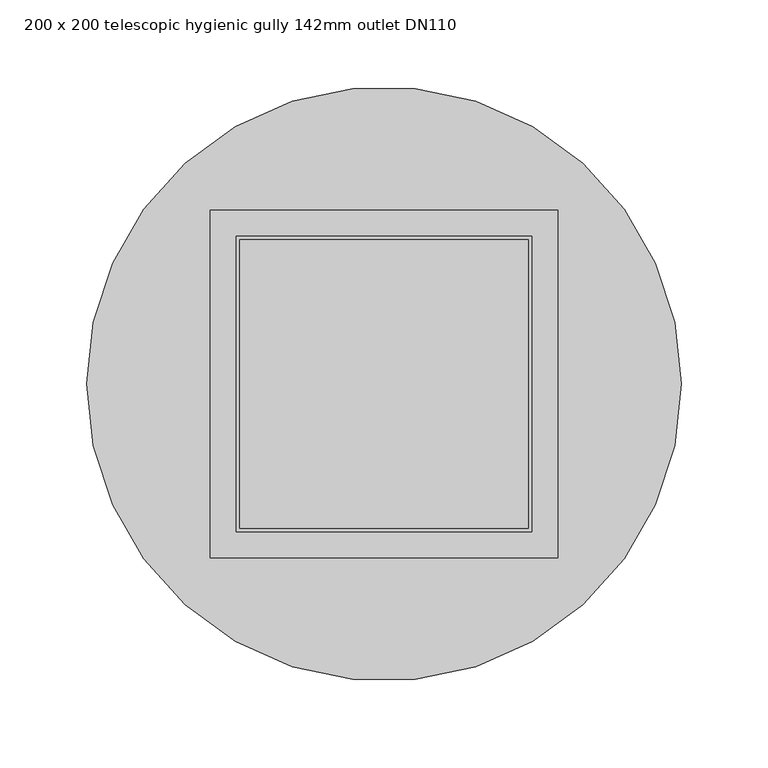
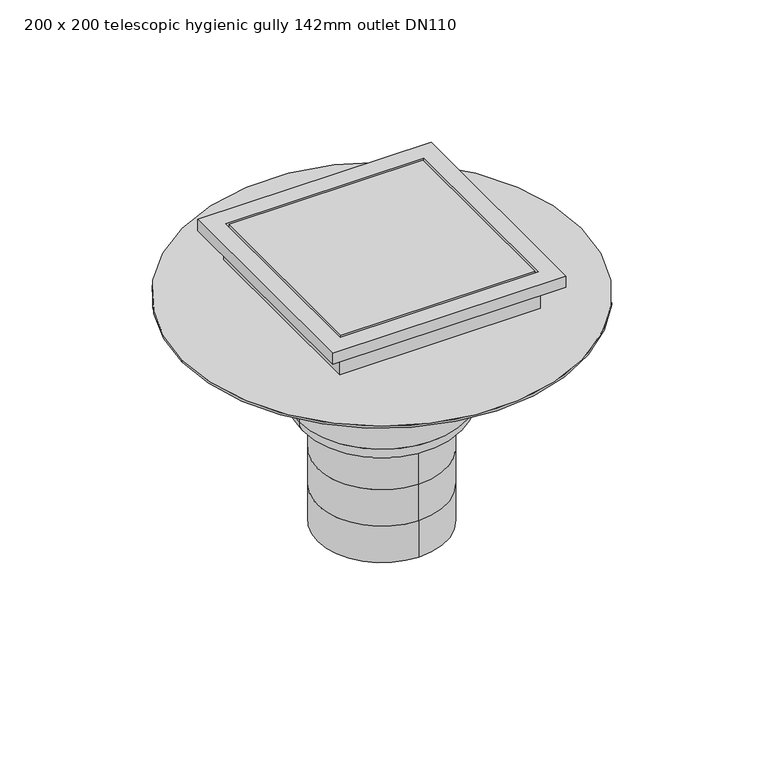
"""IFC4 building model written with IfcOpenShell, lengths in millimetres: sanitary terminal geometry, PF_ST_UN_Siphon telescopics eskis hygiene first_ACO : 200 x 200 telescopic hygienic gully 142mm outlet DN110."""

from ifc_helpers import new_model, si_unit, point, frame, origin, origin_2d, place, context, project, spatial, polyline, circle_curve, ellipse_curve, trimmed, segment, composite_curve, outline, extrude, faceted_brep, source, transform, mapped, element, save
from ifc_brep_helpers import plane_surface, cylinder_surface, revolved_surface, advanced_brep


def sanitary_terminal_200_x_200_telescopic_hygienic_gully_142mm_c773a695(model_context):
    return source(origin(), model_context, "Body", "SolidModel", [
        extrude(outline(composite_curve([segment(trimmed(circle_curve(origin_2d(), 62.5), [point((-62.5, 0.0))], [point((62.5, 0.0))], False, "CARTESIAN"), True, "CONTINUOUS"), segment(trimmed(circle_curve(origin_2d(), 62.5), [point((62.5, 0.0))], [point((-62.5, 0.0))], False, "CARTESIAN"), True, "CONTINUOUS")], self_intersect=False)), frame((0.0, 0.0, -198.0), z_axis=(0.0, 0.0, 1.0), x_axis=(1.0, 0.0, 0.0)), (0.0, 0.0, 1.0), 45.0),
        faceted_brep([(100.0, 100.0, -130.0), (100.0, 100.0, -120.0), (100.0, -100.0, -120.0), (100.0, -100.0, -130.0), (86.0, 86.0, -153.0), (86.0, 86.0, -130.0), (86.0, -86.0, -130.0), (86.0, -86.0, -153.0), (85.0, -85.0, -120.0), (85.0, 85.0, -120.0), (85.0, 85.0, -143.0), (85.0, -85.0, -143.0), (-100.0, -100.0, -120.0), (-100.0, -100.0, -130.0), (-86.0, -86.0, -130.0), (-86.0, -86.0, -153.0), (-85.0, -85.0, -120.0), (-85.0, -85.0, -143.0), (-100.0, 100.0, -120.0), (-100.0, 100.0, -130.0), (-86.0, 86.0, -130.0), (-86.0, 86.0, -153.0), (-85.0, 85.0, -120.0), (-85.0, 85.0, -143.0)], [[[0, 1, 2, 3]], [[4, 5, 6, 7]], [[8, 9, 10, 11]], [[3, 2, 12, 13]], [[7, 6, 14, 15]], [[16, 8, 11, 17]], [[13, 12, 18, 19]], [[15, 14, 20, 21]], [[22, 16, 17, 23]], [[2, 1, 18, 12], [9, 8, 16, 22]], [[1, 0, 19, 18]], [[0, 3, 13, 19], [6, 5, 20, 14]], [[5, 4, 21, 20]], [[4, 7, 15, 21]], [[9, 22, 23, 10]], [[11, 10, 23, 17]]]),
        extrude(outline(polyline([(83.0, 83.0), (83.0, -83.0), (-83.0, -83.0), (-83.0, 83.0), (83.0, 83.0)])), frame((0.0, 0.0, -143.0), z_axis=(0.0, 0.0, 1.0), x_axis=(1.0, 0.0, 0.0)), (0.0, 0.0, 1.0), 23.0),
        advanced_brep(
        [(0.0, -55.0, -367.0), (0.0, 55.0, -367.0), (0.0, -55.0, -334.0), (0.0, 55.0, -334.0), (0.0, -55.0, -301.0), (0.0, 55.0, -301.0), (0.0, 55.0, -268.0), (55.0, 0.0, -268.0), (0.0, -55.0, -268.0), (-55.0, 0.0, -268.0), (71.0, 0.0, -253.0), (-71.0, 0.0, -253.0), (-71.0, 0.0, -164.0), (71.0, 0.0, -164.0), (56.0, 0.0, -268.0), (-56.0, 0.0, -268.0), (-171.0, 0.0, -164.0), (171.0, 0.0, -164.0), (-171.0, 0.0, -162.0), (171.0, 0.0, -162.0)],
        [
            (0, 1, circle_curve(frame((0.0, 0.0, -367.0), z_axis=(0.0, 0.0, -1.0), x_axis=(0.0, 1.0, 0.0)), 55.0)),
            (1, 0, circle_curve(frame((0.0, 0.0, -367.0), z_axis=(0.0, 0.0, -1.0), x_axis=(0.0, 1.0, 0.0)), 55.0)),
            (0, 2),
            (2, 3, circle_curve(frame((0.0, 0.0, -334.0), z_axis=(0.0, 0.0, -1.0), x_axis=(0.0, 1.0, 0.0)), 55.0)),
            (3, 1),
            (3, 2, circle_curve(frame((0.0, 0.0, -334.0), z_axis=(0.0, 0.0, -1.0), x_axis=(0.0, 1.0, 0.0)), 55.0)),
            (4, 2),
            (3, 5),
            (5, 4, circle_curve(frame((0.0, 0.0, -301.0), z_axis=(0.0, 0.0, -1.0), x_axis=(1.0, 0.0, 0.0)), 55.0)),
            (4, 5, circle_curve(frame((0.0, 0.0, -301.0), z_axis=(0.0, 0.0, -1.0), x_axis=(-1.0, 0.0, 0.0)), 55.0)),
            (5, 6),
            (6, 7, circle_curve(frame((0.0, 0.0, -268.0), z_axis=(0.0, 0.0, -1.0), x_axis=(0.0, 1.0, 0.0)), 55.0)),
            (7, 8, circle_curve(frame((0.0, 0.0, -268.0), z_axis=(0.0, 0.0, -1.0), x_axis=(0.0, 1.0, 0.0)), 55.0)),
            (8, 4),
            (8, 9, circle_curve(frame((0.0, 0.0, -268.0), z_axis=(0.0, 0.0, -1.0), x_axis=(0.0, 1.0, 0.0)), 55.0)),
            (9, 6, circle_curve(frame((0.0, 0.0, -268.0), z_axis=(0.0, 0.0, -1.0), x_axis=(0.0, 1.0, 0.0)), 55.0)),
            (10, 11, circle_curve(frame((0.0, 0.0, -253.0), z_axis=(0.0, 0.0, 1.0), x_axis=(-1.0, 0.0, 0.0)), 71.0)),
            (11, 12),
            (12, 13, circle_curve(frame((0.0, 0.0, -164.0), z_axis=(0.0, 0.0, -1.0), x_axis=(-1.0, 0.0, 0.0)), 71.0)),
            (13, 10),
            (11, 10, circle_curve(frame((0.0, 0.0, -253.0), z_axis=(0.0, 0.0, 1.0), x_axis=(-1.0, 0.0, 0.0)), 71.0)),
            (13, 12, circle_curve(frame((0.0, 0.0, -164.0), z_axis=(0.0, 0.0, -1.0), x_axis=(-1.0, 0.0, 0.0)), 71.0)),
            (10, 14, circle_curve(frame((56.0, 0.0, -253.0), z_axis=(0.0, 1.0, 0.0), x_axis=(-1.0, 0.0, 0.0)), 15.0)),
            (14, 15, circle_curve(frame((0.0, 0.0, -268.0), z_axis=(0.0, 0.0, 1.0), x_axis=(-1.0, 0.0, 0.0)), 56.0)),
            (15, 11, circle_curve(frame((-56.0, 0.0, -253.0), z_axis=(0.0, 1.0, 0.0), x_axis=(1.0, 0.0, 0.0)), 15.0)),
            (15, 14, circle_curve(frame((0.0, 0.0, -268.0), z_axis=(0.0, 0.0, 1.0), x_axis=(-1.0, 0.0, 0.0)), 56.0)),
            (14, 7),
            (9, 15),
            (16, 17, circle_curve(frame((0.0, 0.0, -164.0), z_axis=(0.0, 0.0, -1.0), x_axis=(1.0, 0.0, 0.0)), 171.0)),
            (17, 16, circle_curve(frame((0.0, 0.0, -164.0), z_axis=(0.0, 0.0, -1.0), x_axis=(1.0, 0.0, 0.0)), 171.0)),
            (18, 19, circle_curve(frame((0.0, 0.0, -162.0), z_axis=(0.0, 0.0, 1.0), x_axis=(1.0, 0.0, 0.0)), 171.0)),
            (19, 18, circle_curve(frame((0.0, 0.0, -162.0), z_axis=(0.0, 0.0, 1.0), x_axis=(1.0, 0.0, 0.0)), 171.0)),
            (17, 19),
            (18, 16),
        ],
        [
            plane_surface(frame((0.0, 55.0, -367.0), z_axis=(0.0, 0.0, -1.0), x_axis=(1.0, 0.0, 0.0))),
            cylinder_surface(frame((0.0, 0.0, -334.0), z_axis=(0.0, 0.0, -1.0), x_axis=(0.0, 1.0, 0.0)), 55.0),
            cylinder_surface(frame((0.0, 0.0, -301.0), z_axis=(0.0, 0.0, -1.0), x_axis=(1.0, 0.0, 0.0)), 55.0),
            cylinder_surface(frame((0.0, 0.0, -301.0), z_axis=(0.0, 0.0, -1.0), x_axis=(-1.0, 0.0, 0.0)), 55.0),
            cylinder_surface(frame((0.0, 0.0, -268.0), z_axis=(0.0, 0.0, -1.0), x_axis=(0.0, 1.0, 0.0)), 55.0),
            cylinder_surface(frame((0.0, 0.0, -102.0), z_axis=(0.0, 0.0, -1.0), x_axis=(-1.0, 0.0, 0.0)), 71.0),
            revolved_surface(trimmed(ellipse_curve(frame((-56.0, 0.0, -253.0), z_axis=(0.0, -1.0, 0.0), x_axis=(1.0, 0.0, 0.0)), 15.0, 15.0), [point((-71.0, 0.0, -253.0))], [point((-56.0, 0.0, -268.0))], True, "CARTESIAN"), (0.0, 0.0, -102.0), (0.0, 0.0, -1.0)),
            plane_surface(frame((0.0, 0.0, -268.0), z_axis=(0.0, 0.0, -1.0), x_axis=(-1.0, 0.0, 0.0))),
            plane_surface(frame((171.0, 0.0, -164.0), z_axis=(0.0, 0.0, -1.0), x_axis=(0.0, -1.0, 0.0))),
            plane_surface(frame((171.0, 0.0, -162.0), z_axis=(0.0, 0.0, 1.0), x_axis=(0.0, 1.0, 0.0))),
            cylinder_surface(frame((0.0, 0.0, -164.0), z_axis=(0.0, 0.0, 1.0), x_axis=(1.0, 0.0, 0.0)), 171.0),
        ],
        [
            (0, [[1, 2]]),
            (1, [[-1, 3, 4, 5]]),
            (1, [[-2, -5, 6, -3]]),
            (2, [[7, -6, 8, 9]]),
            (3, [[-7, 10, -8, -4]]),
            (4, [[11, 12, 13, 14, -9]]),
            (4, [[-11, -10, -14, 15, 16]]),
            (5, [[17, 18, 19, 20]]),
            (5, [[-18, 21, -20, 22]]),
            (6, [[-17, 23, 24, 25]]),
            (6, [[-21, -25, 26, -23]]),
            (7, [[-24, 27, -12, -16, 28]]),
            (7, [[-26, -28, -15, -13, -27]]),
            (8, [[29, 30], [-19, -22]]),
            (9, [[31, 32]]),
            (10, [[-30, 33, -31, 34]]),
            (10, [[-29, -34, -32, -33]]),
        ],
    ),
    ])


if __name__ == "__main__":
    model = new_model("IFC4")
    model_context = context("Model", 3, world=origin())
    ifc_project = project(units=[si_unit("LENGTHUNIT", "METRE", prefix="MILLI")], contexts=[model_context])
    site = spatial("IfcSite", under=ifc_project)
    building = spatial("IfcBuilding", under=site)
    placement = place(None, origin())
    sanitary_terminal_200_x_200_telescopic_hygienic_gully_142mm_shape = sanitary_terminal_200_x_200_telescopic_hygienic_gully_142mm_c773a695(model_context)
    element("IfcSanitaryTerminal", 1, ObjectType="PF_ST_UN_Siphon telescopics eskis hygiene first_ACO : 200 x 200 telescopic hygienic gully 142mm outlet DN110", at=placement, inside=building, context=model_context, shape_type="MappedRepresentation", body=[
        mapped(sanitary_terminal_200_x_200_telescopic_hygienic_gully_142mm_shape, transform((0.0, 0.0, 0.0), x_axis=(1.0, 0.0, 0.0), y_axis=(0.0, 1.0, 0.0), z_axis=(0.0, 0.0, 1.0))),
    ])
    save(model, "model.ifc")
